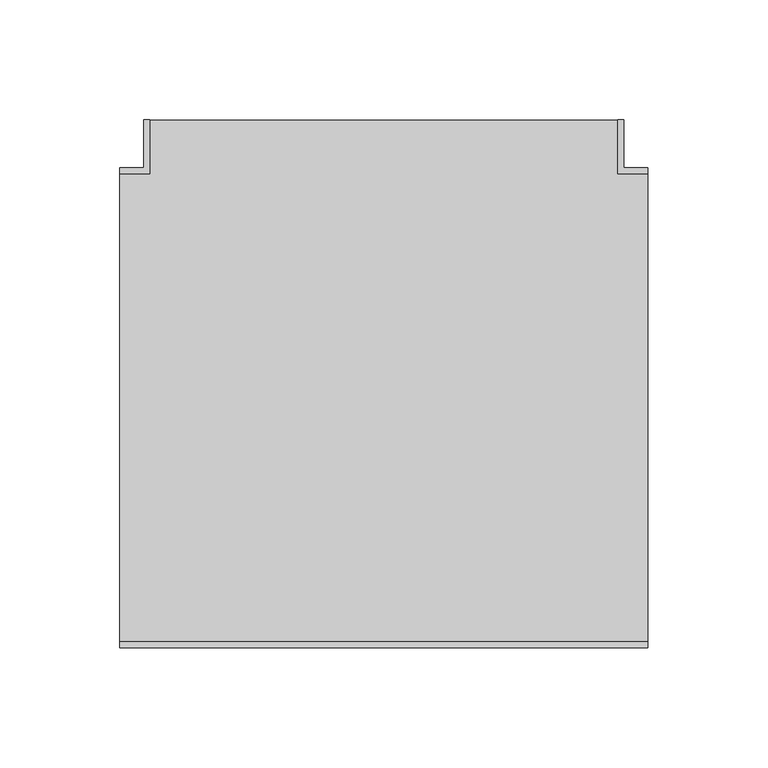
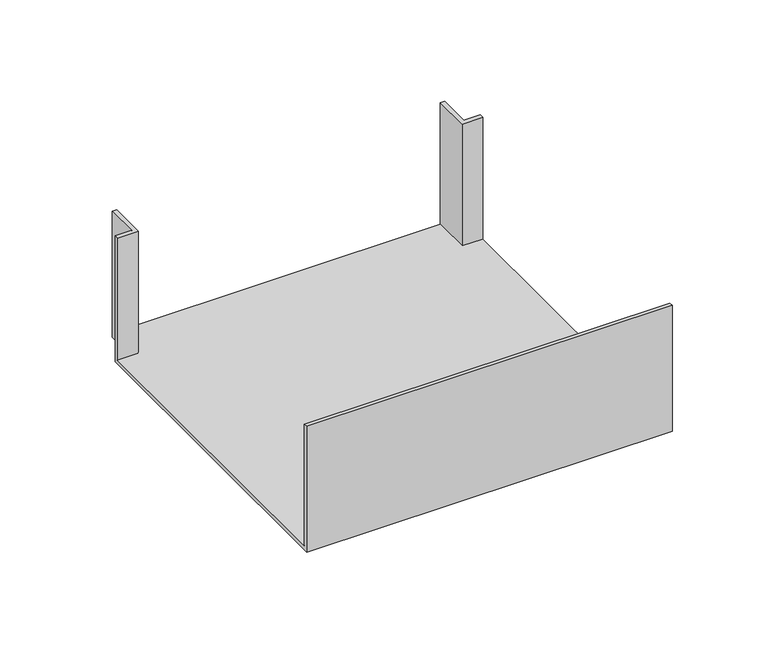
"""IFC4 building model written with IfcOpenShell, lengths in millimetres: cable carrier fitting geometry, КНС_ТройникNTAN_ILC_DKC : Тройник/отвод."""

from ifc_helpers import new_model, si_unit, origin, place, context, project, spatial, faceted_brep, source, transform, mapped, element, save


def cable_carrier_fitting_a3d88900(model_context):
    return source(origin(), model_context, "Body", "Brep", [
        faceted_brep([(110.0, -97.5, -37.5), (110.0, 97.5, -37.5), (97.5, 97.5, -37.5), (97.5, 120.0, -37.5), (-97.5, 120.0, -37.5), (-97.5, 97.5, -37.5), (-110.0, 97.5, -37.5), (-110.0, -97.5, -37.5), (110.0, -100.0, -40.0), (-110.0, -100.0, -40.0), (-110.0, 100.0, -40.0), (-100.0, 100.0, -40.0), (-100.0, 120.0, -40.0), (100.0, 120.0, -40.0), (100.0, 100.0, -40.0), (110.0, 100.0, -40.0), (110.0, 100.0, 40.0), (110.0, 97.5, 40.0), (110.0, -97.5, 40.0), (110.0, -100.0, 40.0), (100.0, 100.0, 40.0), (100.0, 120.0, 40.0), (-100.0, 120.0, 40.0), (-97.5, 120.0, 40.0), (97.5, 120.0, 40.0), (-100.0, 100.0, 40.0), (-110.0, 100.0, 40.0), (-110.0, -100.0, 40.0), (-110.0, -97.5, 40.0), (-110.0, 97.5, 40.0), (97.5, 97.5, 40.0), (-97.5, 97.5, 40.0)], [[[0, 1, 2, 3, 4, 5, 6, 7]], [[8, 9, 10, 11, 12, 13, 14, 15]], [[8, 15, 16, 17, 1, 0, 18, 19]], [[16, 15, 14, 20]], [[20, 14, 13, 21]], [[21, 13, 12, 22, 23, 4, 3, 24]], [[22, 12, 11, 25]], [[25, 11, 10, 26]], [[26, 10, 9, 27, 28, 7, 6, 29]], [[27, 9, 8, 19]], [[20, 21, 24, 30, 17, 16]], [[25, 26, 29, 31, 23, 22]], [[27, 19, 18, 28]], [[31, 29, 6, 5]], [[23, 31, 5, 4]], [[30, 24, 3, 2]], [[17, 30, 2, 1]], [[28, 18, 0, 7]]]),
    ])


if __name__ == "__main__":
    model = new_model("IFC4")
    model_context = context("Model", 3, world=origin())
    ifc_project = project(units=[si_unit("LENGTHUNIT", "METRE", prefix="MILLI")], contexts=[model_context])
    site = spatial("IfcSite", under=ifc_project)
    building = spatial("IfcBuilding", under=site)
    placement = place(None, origin())
    cable_carrier_fitting_shape = cable_carrier_fitting_a3d88900(model_context)
    element("IfcCableCarrierFitting", 1, ObjectType="КНС_ТройникNTAN_ILC_DKC : Тройник/отвод", at=placement, inside=building, context=model_context, shape_type="MappedRepresentation", body=[
        mapped(cable_carrier_fitting_shape, transform((0.0, 0.0, 0.0), x_axis=(1.0, 0.0, 0.0), y_axis=(0.0, 1.0, 0.0), z_axis=(0.0, 0.0, 1.0))),
    ])
    save(model, "model.ifc")
